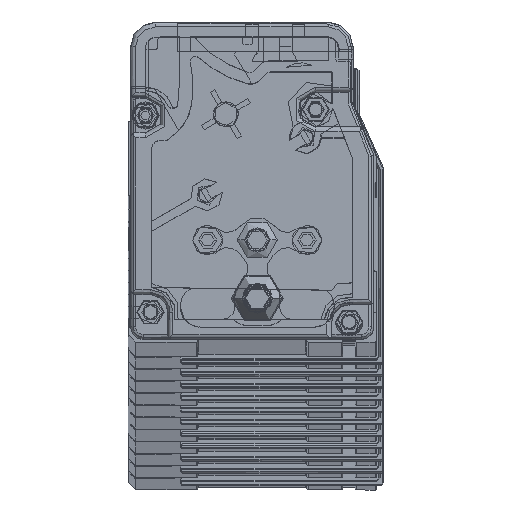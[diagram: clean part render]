
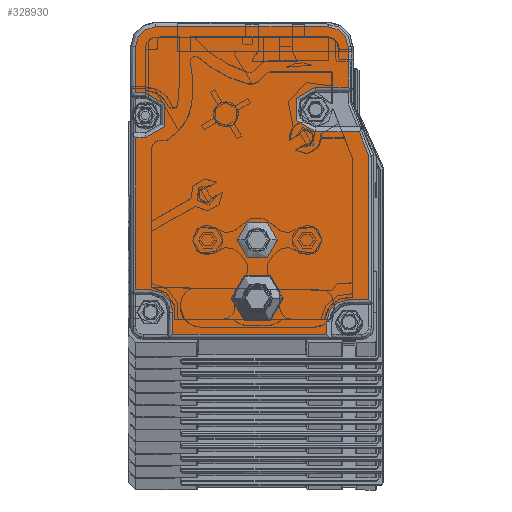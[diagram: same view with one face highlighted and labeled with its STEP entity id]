
A CAD part, top view. The second image highlights one B-rep face of the part: STEP entity #328930.
In plain terms, the highlighted planar face has unit normal (0, 0, 1).
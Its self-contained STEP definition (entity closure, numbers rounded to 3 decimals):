
#229910=CARTESIAN_POINT('',(-20.559,52.924,
2558.89));
#229920=DIRECTION('',(-1.,0.,0.));
#229930=VECTOR('',#229920,1.);
#229940=LINE('',#229910,#229930);
#229950=CARTESIAN_POINT('',(-25.759,52.924,
2558.89));
#229960=VERTEX_POINT('',#229950);
#229970=CARTESIAN_POINT('',(-32.309,52.924,
2558.89));
#229980=VERTEX_POINT('',#229970);
#229990=EDGE_CURVE('',#229960,#229980,#229940,.T.);
#231210=CARTESIAN_POINT('',(-68.559,2.124,
2558.89));
#231220=DIRECTION('',(0.,-1.,0.));
#231230=VECTOR('',#231220,1.);
#231240=LINE('',#231210,#231230);
#231250=CARTESIAN_POINT('',(-68.559,61.024,
2558.89));
#231260=VERTEX_POINT('',#231250);
#231270=CARTESIAN_POINT('',(-68.559,51.727,
2558.89));
#231280=VERTEX_POINT('',#231270);
#231290=EDGE_CURVE('',#231260,#231280,#231240,.T.);
#249330=CARTESIAN_POINT('',(-68.559,2.124,
2558.89));
#249340=DIRECTION('',(0.,-1.,0.));
#249350=VECTOR('',#249340,1.);
#249360=LINE('',#249330,#249350);
#249370=CARTESIAN_POINT('',(-68.559,42.727,
2558.89));
#249380=VERTEX_POINT('',#249370);
#249390=CARTESIAN_POINT('',(-68.559,12.124,
2558.89));
#249400=VERTEX_POINT('',#249390);
#249410=EDGE_CURVE('',#249380,#249400,#249360,.T.);
#253900=CARTESIAN_POINT('',(-66.559,47.227,
2558.89));
#253910=DIRECTION('',(0.,0.,-1.));
#253920=DIRECTION('',(-1.,0.,0.));
#253930=AXIS2_PLACEMENT_3D('',#253900,#253910,#253920);
#253940=CIRCLE('',#253930,4.5);
#253950=CARTESIAN_POINT('',(-66.559,51.727,
2558.89));
#253960=VERTEX_POINT('',#253950);
#253970=CARTESIAN_POINT('',(-66.559,42.727,
2558.89));
#253980=VERTEX_POINT('',#253970);
#253990=EDGE_CURVE('',#253960,#253980,#253940,.T.);
#259400=CARTESIAN_POINT('',(-20.559,65.024,
2558.89));
#259410=DIRECTION('',(-1.,0.,0.));
#259420=VECTOR('',#259410,1.);
#259430=LINE('',#259400,#259420);
#259440=CARTESIAN_POINT('',(-29.759,65.024,
2558.89));
#259450=VERTEX_POINT('',#259440);
#259460=CARTESIAN_POINT('',(-64.559,65.024,
2558.89));
#259470=VERTEX_POINT('',#259460);
#259480=EDGE_CURVE('',#259450,#259470,#259430,.T.);
#272330=CARTESIAN_POINT('',(-32.309,48.424,
2558.89));
#272340=DIRECTION('',(0.,0.,-1.));
#272350=DIRECTION('',(-1.,0.,0.));
#272360=AXIS2_PLACEMENT_3D('',#272330,#272340,#272350);
#272370=CIRCLE('',#272360,4.5);
#272380=CARTESIAN_POINT('',(-32.309,43.924,
2558.89));
#272390=VERTEX_POINT('',#272380);
#272400=EDGE_CURVE('',#272390,#229980,#272370,.T.);
#273880=CARTESIAN_POINT('',(-20.559,10.124,
2558.89));
#273890=DIRECTION('',(1.,0.,0.));
#273900=VECTOR('',#273890,1.);
#273910=LINE('',#273880,#273900);
#273920=CARTESIAN_POINT('',(-25.559,10.124,
2558.89));
#273930=VERTEX_POINT('',#273920);
#273940=CARTESIAN_POINT('',(-21.559,10.124,
2558.89));
#273950=VERTEX_POINT('',#273940);
#273960=EDGE_CURVE('',#273930,#273950,#273910,.T.);
#305620=CARTESIAN_POINT('',(-25.559,5.624,
2558.89));
#305630=DIRECTION('',(0.,0.,-1.));
#305640=DIRECTION('',(-1.,0.,0.));
#305650=AXIS2_PLACEMENT_3D('',#305620,#305630,#305640);
#305660=CIRCLE('',#305650,4.5);
#305670=CARTESIAN_POINT('',(-30.059,5.624,
2558.89));
#305680=VERTEX_POINT('',#305670);
#305690=EDGE_CURVE('',#305680,#273930,#305660,.T.);
#327260=CARTESIAN_POINT('',(-7.243,2.124,
2558.89));
#327270=DIRECTION('',(0.362,-0.932,0.));
#327280=VECTOR('',#327270,1.);
#327290=LINE('',#327260,#327280);
#327300=CARTESIAN_POINT('',(-23.499,43.924,
2558.89));
#327310=VERTEX_POINT('',#327300);
#327320=CARTESIAN_POINT('',(-21.559,38.937,
2558.89));
#327330=VERTEX_POINT('',#327320);
#327340=EDGE_CURVE('',#327310,#327330,#327290,.T.);
#327620=CARTESIAN_POINT('',(-20.265,1.758,
2558.89));
#327630=DIRECTION('',(0.,0.,-1.));
#327640=DIRECTION('',(-1.,0.,0.));
#327650=AXIS2_PLACEMENT_3D('',#327620,#327630,#327640);
#327660=PLANE('',#327650);
#327670=CARTESIAN_POINT('',(-44.056,10.421,
2558.89));
#327680=DIRECTION('',(0.,0.,-1.));
#327690=DIRECTION('',(-1.,0.,0.));
#327700=AXIS2_PLACEMENT_3D('',#327670,#327680,#327690);
#327710=CIRCLE('',#327700,5.);
#327720=CARTESIAN_POINT('',(-39.056,10.421,
2558.89));
#327730=VERTEX_POINT('',#327720);
#327740=CARTESIAN_POINT('',(-49.056,10.421,
2558.89));
#327750=VERTEX_POINT('',#327740);
#327760=EDGE_CURVE('',#327730,#327750,#327710,.T.);
#327770=ORIENTED_EDGE('',*,*,#327760,.T.);
#327780=EDGE_CURVE('',#327750,#327730,#327710,.T.);
#327790=ORIENTED_EDGE('',*,*,#327780,.T.);
#327800=EDGE_LOOP('',(#327790,#327770));
#327810=FACE_BOUND('',#327800,.T.);
#327820=CARTESIAN_POINT('',(-44.059,22.124,
2558.89));
#327830=DIRECTION('',(0.,0.,1.));
#327840=DIRECTION('',(-1.,0.,0.));
#327850=AXIS2_PLACEMENT_3D('',#327820,#327830,#327840);
#327860=CIRCLE('',#327850,4.);
#327870=CARTESIAN_POINT('',(-40.059,22.124,
2558.89));
#327880=VERTEX_POINT('',#327870);
#327890=CARTESIAN_POINT('',(-48.059,22.124,
2558.89));
#327900=VERTEX_POINT('',#327890);
#327910=EDGE_CURVE('',#327880,#327900,#327860,.T.);
#327920=ORIENTED_EDGE('',*,*,#327910,.F.);
#327930=EDGE_CURVE('',#327900,#327880,#327860,.T.);
#327940=ORIENTED_EDGE('',*,*,#327930,.F.);
#327950=EDGE_LOOP('',(#327940,#327920));
#327960=FACE_BOUND('',#327950,.T.);
#327970=CARTESIAN_POINT('',(-61.059,2.124,
2558.89));
#327980=DIRECTION('',(0.,-1.,0.));
#327990=VECTOR('',#327980,1.);
#328000=LINE('',#327970,#327990);
#328010=CARTESIAN_POINT('',(-61.059,7.624,
2558.89));
#328020=VERTEX_POINT('',#328010);
#328030=CARTESIAN_POINT('',(-61.059,3.124,
2558.89));
#328040=VERTEX_POINT('',#328030);
#328050=EDGE_CURVE('',#328020,#328040,#328000,.T.);
#328060=ORIENTED_EDGE('',*,*,#328050,.T.);
#328070=CARTESIAN_POINT('',(-65.559,7.624,
2558.89));
#328080=DIRECTION('',(0.,0.,-1.));
#328090=DIRECTION('',(-1.,0.,0.));
#328100=AXIS2_PLACEMENT_3D('',#328070,#328080,#328090);
#328110=CIRCLE('',#328100,4.5);
#328120=CARTESIAN_POINT('',(-65.559,12.124,
2558.89));
#328130=VERTEX_POINT('',#328120);
#328140=EDGE_CURVE('',#328130,#328020,#328110,.T.);
#328150=ORIENTED_EDGE('',*,*,#328140,.T.);
#328160=CARTESIAN_POINT('',(-20.559,12.124,
2558.89));
#328170=DIRECTION('',(1.,0.,0.));
#328180=VECTOR('',#328170,1.);
#328190=LINE('',#328160,#328180);
#328200=EDGE_CURVE('',#249400,#328130,#328190,.T.);
#328210=ORIENTED_EDGE('',*,*,#328200,.T.);
#328220=ORIENTED_EDGE('',*,*,#249410,.T.);
#328230=CARTESIAN_POINT('',(-20.559,42.727,
2558.89));
#328240=DIRECTION('',(-1.,0.,0.));
#328250=VECTOR('',#328240,1.);
#328260=LINE('',#328230,#328250);
#328270=EDGE_CURVE('',#253980,#249380,#328260,.T.);
#328280=ORIENTED_EDGE('',*,*,#328270,.T.);
#328290=ORIENTED_EDGE('',*,*,#253990,.T.);
#328300=CARTESIAN_POINT('',(-20.559,51.727,
2558.89));
#328310=DIRECTION('',(1.,0.,0.));
#328320=VECTOR('',#328310,1.);
#328330=LINE('',#328300,#328320);
#328340=EDGE_CURVE('',#231280,#253960,#328330,.T.);
#328350=ORIENTED_EDGE('',*,*,#328340,.T.);
#328360=ORIENTED_EDGE('',*,*,#231290,.T.);
#328370=CARTESIAN_POINT('',(-64.559,61.024,
2558.89));
#328380=DIRECTION('',(0.,0.,1.));
#328390=DIRECTION('',(1.,0.,0.));
#328400=AXIS2_PLACEMENT_3D('',#328370,#328380,#328390);
#328410=CIRCLE('',#328400,4.);
#328420=EDGE_CURVE('',#259470,#231260,#328410,.T.);
#328430=ORIENTED_EDGE('',*,*,#328420,.T.);
#328440=ORIENTED_EDGE('',*,*,#259480,.T.);
#328450=CARTESIAN_POINT('',(-29.759,61.024,
2558.89));
#328460=DIRECTION('',(0.,0.,1.));
#328470=DIRECTION('',(1.,0.,0.));
#328480=AXIS2_PLACEMENT_3D('',#328450,#328460,#328470);
#328490=CIRCLE('',#328480,4.);
#328500=CARTESIAN_POINT('',(-25.759,61.024,
2558.89));
#328510=VERTEX_POINT('',#328500);
#328520=EDGE_CURVE('',#328510,#259450,#328490,.T.);
#328530=ORIENTED_EDGE('',*,*,#328520,.T.);
#328540=CARTESIAN_POINT('',(-25.759,2.124,
2558.89));
#328550=DIRECTION('',(0.,1.,0.));
#328560=VECTOR('',#328550,1.);
#328570=LINE('',#328540,#328560);
#328580=EDGE_CURVE('',#229960,#328510,#328570,.T.);
#328590=ORIENTED_EDGE('',*,*,#328580,.T.);
#328600=ORIENTED_EDGE('',*,*,#229990,.F.);
#328610=ORIENTED_EDGE('',*,*,#272400,.T.);
#328620=CARTESIAN_POINT('',(-20.559,43.924,
2558.89));
#328630=DIRECTION('',(-1.,0.,0.));
#328640=VECTOR('',#328630,1.);
#328650=LINE('',#328620,#328640);
#328660=EDGE_CURVE('',#327310,#272390,#328650,.T.);
#328670=ORIENTED_EDGE('',*,*,#328660,.T.);
#328680=ORIENTED_EDGE('',*,*,#327340,.F.);
#328690=CARTESIAN_POINT('',(-21.559,2.124,
2558.89));
#328700=DIRECTION('',(0.,-1.,0.));
#328710=VECTOR('',#328700,1.);
#328720=LINE('',#328690,#328710);
#328730=EDGE_CURVE('',#327330,#273950,#328720,.T.);
#328740=ORIENTED_EDGE('',*,*,#328730,.F.);
#328750=ORIENTED_EDGE('',*,*,#273960,.T.);
#328760=ORIENTED_EDGE('',*,*,#305690,.T.);
#328770=CARTESIAN_POINT('',(-30.059,2.124,
2558.89));
#328780=DIRECTION('',(0.,1.,0.));
#328790=VECTOR('',#328780,1.);
#328800=LINE('',#328770,#328790);
#328810=CARTESIAN_POINT('',(-30.059,3.124,
2558.89));
#328820=VERTEX_POINT('',#328810);
#328830=EDGE_CURVE('',#328820,#305680,#328800,.T.);
#328840=ORIENTED_EDGE('',*,*,#328830,.T.);
#328850=CARTESIAN_POINT('',(-20.559,3.124,
2558.89));
#328860=DIRECTION('',(-1.,0.,0.));
#328870=VECTOR('',#328860,1.);
#328880=LINE('',#328850,#328870);
#328890=EDGE_CURVE('',#328820,#328040,#328880,.T.);
#328900=ORIENTED_EDGE('',*,*,#328890,.F.);
#328910=EDGE_LOOP('',(#328900,#328840,#328760,#328750,#328740,#328680,
#328670,#328610,#328600,#328590,#328530,#328440,#328430,#328360,#328350,
#328290,#328280,#328220,#328210,#328150,#328060));
#328920=FACE_OUTER_BOUND('',#328910,.T.);
#328930=ADVANCED_FACE('',(#327810,#327960,#328920),#327660,.F.);
